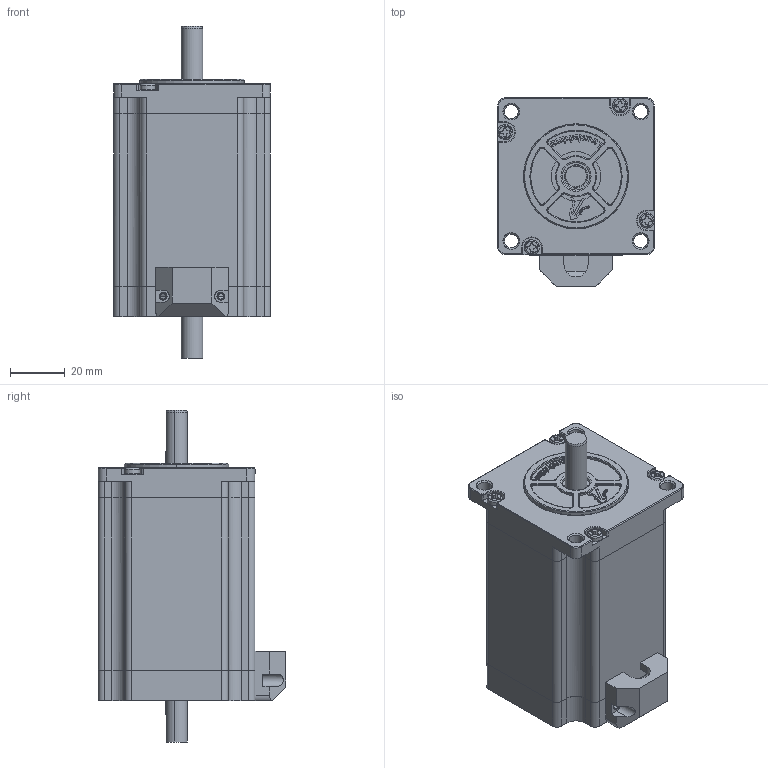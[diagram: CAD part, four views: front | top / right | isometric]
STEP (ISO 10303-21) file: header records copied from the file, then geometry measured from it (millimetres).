
FILE_DESCRIPTION (( 'STEP AP203' ), '1' );
FILE_NAME ('57CM26-SZ MS20.STEP', '2021-04-22T05:52:00', ( 'Owner' ), ( 'Organization' ), 'SwSTEP 2.0', 'SolidWorks 2018', '' );
FILE_SCHEMA (( 'CONFIG_CONTROL_DESIGN' ));
Length unit declared in the file: millimetre
Products named in the file (12): ZZ57HS076DF038X-S2_1; 耳12-耳8-5.5_1; DZTX57HSD53-S1_1; DG57HSD-004-S03_1; 608ZZ_1; 耳12-耳8-4.7_1; Z57HS76MD21B15-04_1_1; M3x72_1; DG57HSD-005-S05_1; GJ57HSD26-S01_1; 57CM26-SZ MS20; YXB 57S-朴6.2FC-02.step_1
Assembly tree (16 placements, depth 3):
  57CM26-SZ MS20
    GJ57HSD26-S01_1  x2
    ZZ57HS076DF038X-S2_1
      Z57HS76MD21B15-04_1_1
      608ZZ_1  x2
      耳12-耳8-5.5_1
      耳12-耳8-4.7_1
    DG57HSD-005-S05_1
    DG57HSD-004-S03_1
    M3x72_1  x4
    YXB 57S-朴6.2FC-02.step_1
    DZTX57HSD53-S1_1
Bounding box: 57.22 x 68.51 x 121 mm (x, y, z)
Volume: 137549.7 mm3; surface area: 114168.4 mm2
Topology: 15 solids, 15 shells, 2429 faces, 6685 edges, 4272 vertices
Faces by surface type: cylinder 1098, plane 975, torus 138, bspline 89, cone 65, sphere 64
Entity records: 65079 total; most frequent: CARTESIAN_POINT 18366, ORIENTED_EDGE 10084, DIRECTION 8708, EDGE_CURVE 5042, VERTEX_POINT 3254, AXIS2_PLACEMENT_3D 3031, LINE 2646, VECTOR 2646
